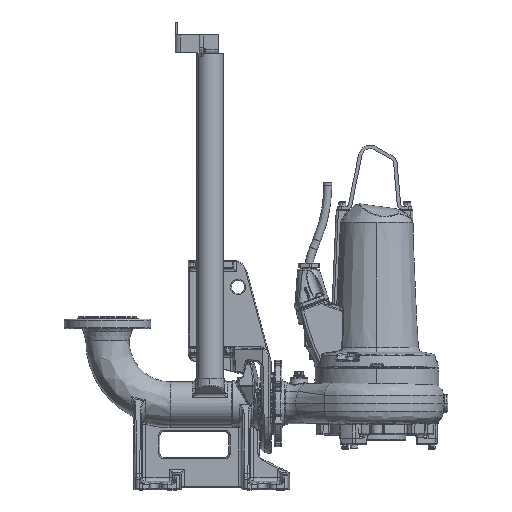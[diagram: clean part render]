
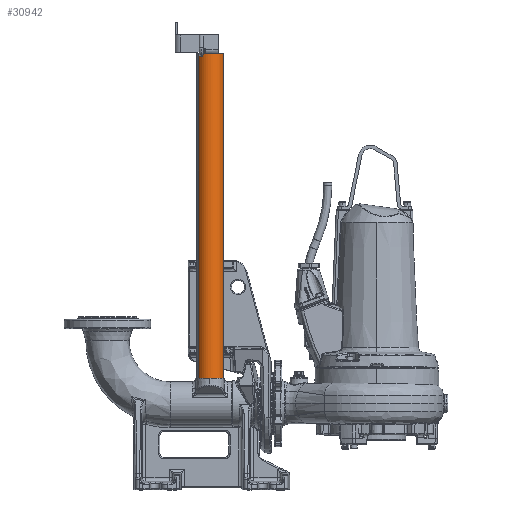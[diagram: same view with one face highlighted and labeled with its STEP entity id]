
A CAD part, top view. The second image highlights one B-rep face of the part: STEP entity #30942.
In plain terms, the highlighted cylindrical face has radius 30.4 mm (diameter 60.8 mm), a partial arc.
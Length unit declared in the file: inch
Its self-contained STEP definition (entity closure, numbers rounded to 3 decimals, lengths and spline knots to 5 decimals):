
#2426 = CARTESIAN_POINT ( 'NONE',  ( 10.37252, 10.15748, 1.39793 ) ) ;
#9217 = DIRECTION ( 'NONE',  ( 0., 1., 0. ) ) ;
#12712 = VECTOR ( 'NONE', #76238, 39.37008 ) ;
#30942 = ADVANCED_FACE ( 'NONE', ( #244005 ), #170013, .T. ) ;
#45957 = AXIS2_PLACEMENT_3D ( 'NONE', #122987, #9217, #142105 ) ;
#48925 = CARTESIAN_POINT ( 'NONE',  ( 8.36673, 39.68504, 2.70431 ) ) ;
#50913 = EDGE_CURVE ( 'NONE', #140133, #201718, #193040, .T. ) ;
#51201 = DIRECTION ( 'NONE',  ( 0., -1., 0. ) ) ;
#57063 = CARTESIAN_POINT ( 'NONE',  ( 10.37252, 39.68504, 1.39793 ) ) ;
#59195 = VERTEX_POINT ( 'NONE', #221090 ) ;
#63275 = LINE ( 'NONE', #57063, #12712 ) ;
#76238 = DIRECTION ( 'NONE',  ( 0., -1., 0. ) ) ;
#76837 = DIRECTION ( 'NONE',  ( 0.838, 0., -0.546 ) ) ;
#80172 = CARTESIAN_POINT ( 'NONE',  ( 9.36962, 39.68504, 2.05112 ) ) ;
#80474 = DIRECTION ( 'NONE',  ( 0., -1., 0. ) ) ;
#80704 = AXIS2_PLACEMENT_3D ( 'NONE', #80172, #80474, #76837 ) ;
#83491 = ORIENTED_EDGE ( 'NONE', *, *, #172391, .T. ) ;
#84757 = CIRCLE ( 'NONE', #219752, 1.19685 ) ;
#85588 = EDGE_LOOP ( 'NONE', ( #83491, #213290, #202072, #86037 ) ) ;
#86037 = ORIENTED_EDGE ( 'NONE', *, *, #228475, .F. ) ;
#98201 = CARTESIAN_POINT ( 'NONE',  ( 8.36673, 10.15748, 2.70431 ) ) ;
#122987 = CARTESIAN_POINT ( 'NONE',  ( 9.36962, 10.15748, 2.05112 ) ) ;
#133521 = CIRCLE ( 'NONE', #45957, 1.19685 ) ;
#140133 = VERTEX_POINT ( 'NONE', #143642 ) ;
#142105 = DIRECTION ( 'NONE',  ( 0.838, 0., -0.546 ) ) ;
#142478 = VECTOR ( 'NONE', #220070, 39.37008 ) ;
#143642 = CARTESIAN_POINT ( 'NONE',  ( 8.36673, 39.68504, 2.70431 ) ) ;
#165175 = CARTESIAN_POINT ( 'NONE',  ( 9.36962, 39.68504, 2.05112 ) ) ;
#170013 = CYLINDRICAL_SURFACE ( 'NONE', #80704, 1.19685 ) ;
#172391 = EDGE_CURVE ( 'NONE', #59195, #140133, #84757, .T. ) ;
#184229 = DIRECTION ( 'NONE',  ( 0.838, 0., -0.546 ) ) ;
#193040 = LINE ( 'NONE', #48925, #142478 ) ;
#201718 = VERTEX_POINT ( 'NONE', #98201 ) ;
#202072 = ORIENTED_EDGE ( 'NONE', *, *, #231839, .T. ) ;
#206365 = VERTEX_POINT ( 'NONE', #2426 ) ;
#213290 = ORIENTED_EDGE ( 'NONE', *, *, #50913, .T. ) ;
#219752 = AXIS2_PLACEMENT_3D ( 'NONE', #165175, #51201, #184229 ) ;
#220070 = DIRECTION ( 'NONE',  ( 0., -1., 0. ) ) ;
#221090 = CARTESIAN_POINT ( 'NONE',  ( 10.37252, 39.68504, 1.39793 ) ) ;
#228475 = EDGE_CURVE ( 'NONE', #59195, #206365, #63275, .T. ) ;
#231839 = EDGE_CURVE ( 'NONE', #201718, #206365, #133521, .T. ) ;
#244005 = FACE_OUTER_BOUND ( 'NONE', #85588, .T. ) ;
